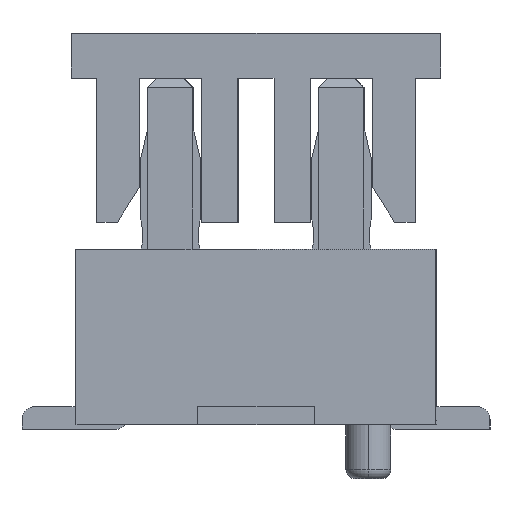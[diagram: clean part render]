
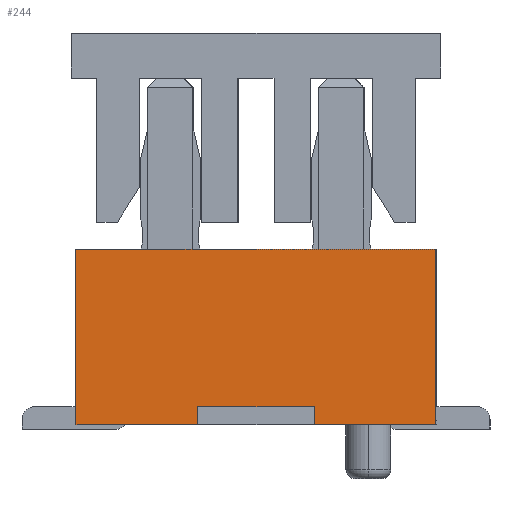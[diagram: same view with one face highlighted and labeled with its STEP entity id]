
A CAD part, left-side view. The second image highlights one B-rep face of the part: STEP entity #244.
In plain terms, the highlighted planar face has unit normal (-1, 0, 0).
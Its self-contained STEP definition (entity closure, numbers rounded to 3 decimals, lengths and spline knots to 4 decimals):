
#173=CARTESIAN_POINT('Axis2P3D Location',(-7.35,0.,0.)) ;
#178=CARTESIAN_POINT('Line Origine',(-7.35,0.65,0.1)) ;
#182=CARTESIAN_POINT('Vertex',(-7.35,0.65,0.)) ;
#184=CARTESIAN_POINT('Vertex',(-7.35,0.65,0.2)) ;
#187=CARTESIAN_POINT('Line Origine',(-7.35,0.,0.2)) ;
#191=CARTESIAN_POINT('Vertex',(-7.35,-0.65,0.2)) ;
#194=CARTESIAN_POINT('Line Origine',(-7.35,-0.65,0.1)) ;
#198=CARTESIAN_POINT('Vertex',(-7.35,-0.65,0.)) ;
#201=CARTESIAN_POINT('Line Origine',(-7.35,-1.325,0.)) ;
#205=CARTESIAN_POINT('Vertex',(-7.35,-2.,0.)) ;
#208=CARTESIAN_POINT('Line Origine',(-7.35,-2.,0.975)) ;
#212=CARTESIAN_POINT('Vertex',(-7.35,-2.,1.95)) ;
#215=CARTESIAN_POINT('Line Origine',(-7.35,0.,1.95)) ;
#219=CARTESIAN_POINT('Vertex',(-7.35,2.,1.95)) ;
#222=CARTESIAN_POINT('Line Origine',(-7.35,2.,0.975)) ;
#226=CARTESIAN_POINT('Vertex',(-7.35,2.,0.)) ;
#229=CARTESIAN_POINT('Line Origine',(-7.35,1.325,0.)) ;
#174=DIRECTION('Axis2P3D Direction',(1.,0.,0.)) ;
#175=DIRECTION('Axis2P3D XDirection',(0.,1.,0.)) ;
#179=DIRECTION('Vector Direction',(0.,0.,1.)) ;
#188=DIRECTION('Vector Direction',(0.,1.,0.)) ;
#195=DIRECTION('Vector Direction',(0.,0.,1.)) ;
#202=DIRECTION('Vector Direction',(0.,1.,0.)) ;
#209=DIRECTION('Vector Direction',(0.,0.,-1.)) ;
#216=DIRECTION('Vector Direction',(0.,1.,0.)) ;
#223=DIRECTION('Vector Direction',(0.,0.,-1.)) ;
#230=DIRECTION('Vector Direction',(0.,1.,0.)) ;
#176=AXIS2_PLACEMENT_3D('Plane Axis2P3D',#173,#174,#175) ;
#235=ORIENTED_EDGE('',*,*,#186,.T.) ;
#236=ORIENTED_EDGE('',*,*,#193,.F.) ;
#237=ORIENTED_EDGE('',*,*,#200,.F.) ;
#238=ORIENTED_EDGE('',*,*,#207,.F.) ;
#239=ORIENTED_EDGE('',*,*,#214,.F.) ;
#240=ORIENTED_EDGE('',*,*,#221,.F.) ;
#241=ORIENTED_EDGE('',*,*,#228,.F.) ;
#242=ORIENTED_EDGE('',*,*,#233,.F.) ;
#180=VECTOR('Line Direction',#179,1.) ;
#189=VECTOR('Line Direction',#188,1.) ;
#196=VECTOR('Line Direction',#195,1.) ;
#203=VECTOR('Line Direction',#202,1.) ;
#210=VECTOR('Line Direction',#209,1.) ;
#217=VECTOR('Line Direction',#216,1.) ;
#224=VECTOR('Line Direction',#223,1.) ;
#231=VECTOR('Line Direction',#230,1.) ;
#244=ADVANCED_FACE('\X2\96F64EF651E04F554F53\X0\',(#243),#177,.F.) ;
#186=EDGE_CURVE('',#183,#185,#181,.T.) ;
#193=EDGE_CURVE('',#192,#185,#190,.T.) ;
#200=EDGE_CURVE('',#199,#192,#197,.T.) ;
#207=EDGE_CURVE('',#206,#199,#204,.T.) ;
#214=EDGE_CURVE('',#213,#206,#211,.T.) ;
#221=EDGE_CURVE('',#220,#213,#218,.F.) ;
#228=EDGE_CURVE('',#227,#220,#225,.F.) ;
#233=EDGE_CURVE('',#183,#227,#232,.T.) ;
#234=EDGE_LOOP('',(#235,#236,#237,#238,#239,#240,#241,#242)) ;
#243=FACE_OUTER_BOUND('',#234,.T.) ;
#181=LINE('Line',#178,#180) ;
#190=LINE('Line',#187,#189) ;
#197=LINE('Line',#194,#196) ;
#204=LINE('Line',#201,#203) ;
#211=LINE('Line',#208,#210) ;
#218=LINE('Line',#215,#217) ;
#225=LINE('Line',#222,#224) ;
#232=LINE('Line',#229,#231) ;
#177=PLANE('Plane',#176) ;
#183=VERTEX_POINT('',#182) ;
#185=VERTEX_POINT('',#184) ;
#192=VERTEX_POINT('',#191) ;
#199=VERTEX_POINT('',#198) ;
#206=VERTEX_POINT('',#205) ;
#213=VERTEX_POINT('',#212) ;
#220=VERTEX_POINT('',#219) ;
#227=VERTEX_POINT('',#226) ;
